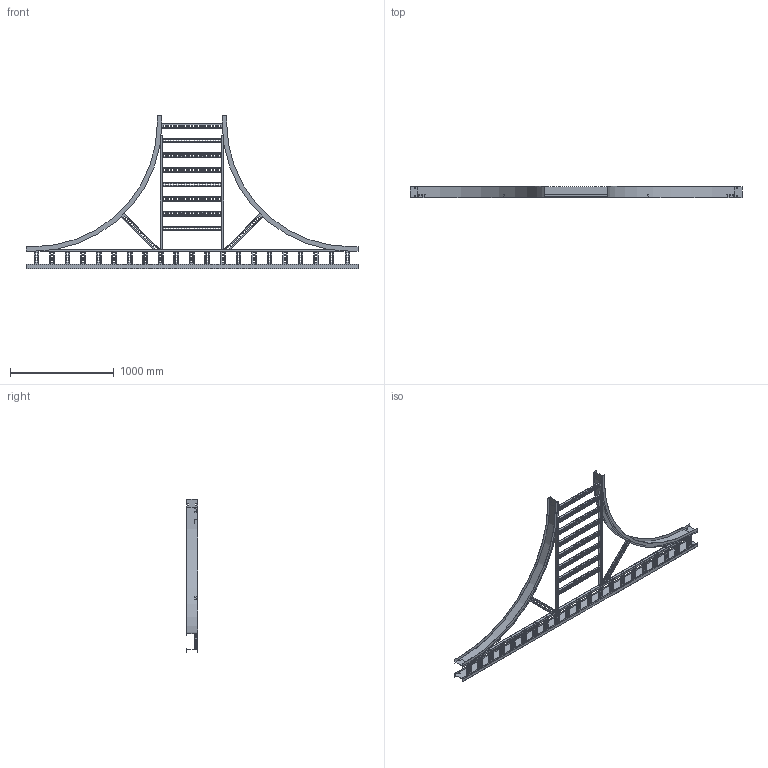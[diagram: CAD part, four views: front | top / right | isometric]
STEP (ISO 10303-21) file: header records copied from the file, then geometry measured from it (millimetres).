
FILE_DESCRIPTION((''),'2;1');
FILE_NAME('AHF40624VET48_ASM','2010-02-03T',('erouzier'),(''),'PRO/ENGINEER BY PARAMETRIC TECHNOLOGY CORPORATION, 2008510','PRO/ENGINEER BY PARAMETRIC TECHNOLOGY CORPORATION, 2008510','');
FILE_SCHEMA(('CONFIG_CONTROL_DESIGN'));
Length unit declared in the file: inch
Products named in the file (22): CDS001810-4-90-48-I; CDS013845-4-126; CDS000495_GEN_AF9; CDS002159L6-P_AF8; CDS002159L6-P_AF9; CDS002159L6-P_AF10; CDS002159L6-P_AF11; CDS002159L6-P; CDS002159L6-P_AF12; CDS002159L6-P_AF13; CDS002159L6-P_AF14; CDS002159L6-P_AF15; CDS000495_GEN_AF10; CDS000495_GEN_AF11; CDS002159L24-P_AF10; CDS002159L24-P_AF11; CDS002159L24-P_AF12; CDS002159L24-P_AF13; CDS002159L24-P; CDS002159L24-P_AF14; CDS002159L24-P_AF15; AHF40624VET48_ASM
Assembly tree (37 placements, depth 2):
  AHF40624VET48_ASM
    CDS001810-4-90-48-I  x2
    CDS013845-4-126
    CDS000495_GEN_AF9
    CDS002159L6-P_AF8
    CDS002159L6-P_AF9
    CDS002159L6-P_AF10
    CDS002159L6-P_AF11
    CDS002159L6-P  x13
    CDS002159L6-P_AF12
    CDS002159L6-P_AF13
    CDS002159L6-P_AF14
    CDS002159L6-P_AF15
    CDS000495_GEN_AF10
    CDS000495_GEN_AF11
    CDS002159L24-P_AF10
    CDS002159L24-P_AF11
    CDS002159L24-P_AF12
    CDS002159L24-P_AF13
    CDS002159L24-P  x4
    CDS002159L24-P_AF14
    CDS002159L24-P_AF15
Bounding box: 3204.21 x 106.43 x 1479.8 mm (x, y, z)
Volume: 4776202.9 mm3; surface area: 5555872.6 mm2
Topology: 37 solids, 37 shells, 3442 faces, 10104 edges, 6736 vertices
Faces by surface type: plane 1907, cylinder 1535
Entity records: 69599 total; most frequent: CARTESIAN_POINT 12233, ORIENTED_EDGE 11976, DIRECTION 11954, EDGE_CURVE 5988, VECTOR 4172, LINE 4172, VERTEX_POINT 3992, AXIS2_PLACEMENT_3D 3891
